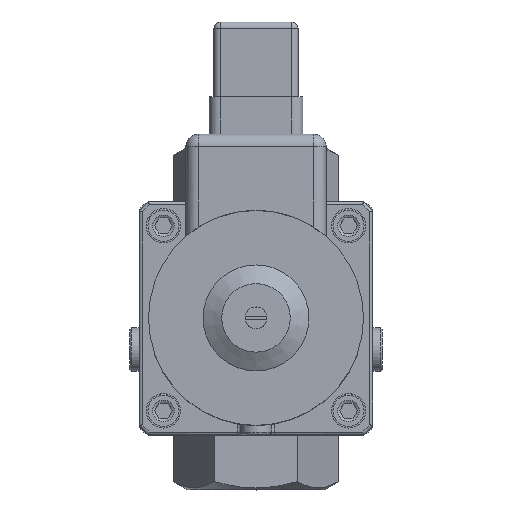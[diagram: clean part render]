
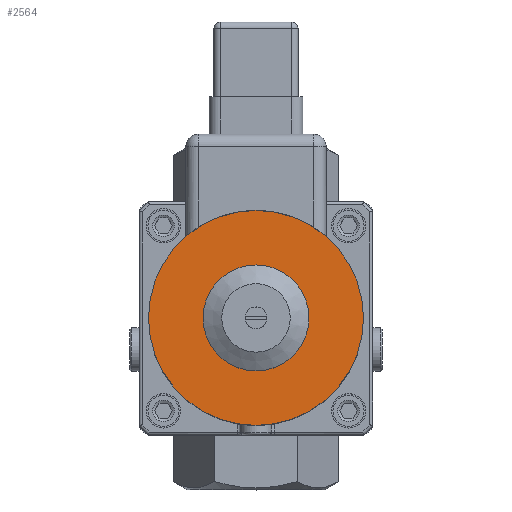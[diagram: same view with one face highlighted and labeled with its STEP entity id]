
A CAD part, top view. The second image highlights one B-rep face of the part: STEP entity #2564.
In plain terms, the highlighted planar face has unit normal (0, 0, 1).
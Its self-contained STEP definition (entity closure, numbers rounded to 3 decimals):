
#2564 = ADVANCED_FACE( '', ( #4092, #4093 ), #4094, .F. );
#4092 = FACE_BOUND( '', #6755, .T. );
#4093 = FACE_OUTER_BOUND( '', #6756, .T. );
#4094 = PLANE( '', #6757 );
#6755 = EDGE_LOOP( '', ( #10311 ) );
#6756 = EDGE_LOOP( '', ( #10312 ) );
#6757 = AXIS2_PLACEMENT_3D( '', #10313, #10314, #10315 );
#10311 = ORIENTED_EDGE( '', *, *, #11651, .T. );
#10312 = ORIENTED_EDGE( '', *, *, #11642, .F. );
#10313 = CARTESIAN_POINT( '', ( 0., 0., 60. ) );
#10314 = DIRECTION( '', ( 0., 0., -1. ) );
#10315 = DIRECTION( '', ( -1., 0., 0. ) );
#11642 = EDGE_CURVE( '', #13326, #13326, #13327, .T. );
#11651 = EDGE_CURVE( '', #13343, #13343, #13344, .T. );
#13326 = VERTEX_POINT( '', #17678 );
#13327 = CIRCLE( '', #17679, 34.5 );
#13343 = VERTEX_POINT( '', #17744 );
#13344 = CIRCLE( '', #17745, 13.75 );
#17678 = CARTESIAN_POINT( '', ( 34.5, 0., 60. ) );
#17679 = AXIS2_PLACEMENT_3D( '', #19659, #19660, #19661 );
#17744 = CARTESIAN_POINT( '', ( 13.75, 0., 60. ) );
#17745 = AXIS2_PLACEMENT_3D( '', #19673, #19674, #19675 );
#19659 = CARTESIAN_POINT( '', ( 0., 0., 60. ) );
#19660 = DIRECTION( '', ( 0., 0., -1. ) );
#19661 = DIRECTION( '', ( 1., 0., 0. ) );
#19673 = CARTESIAN_POINT( '', ( 0., 0., 60. ) );
#19674 = DIRECTION( '', ( 0., 0., -1. ) );
#19675 = DIRECTION( '', ( 1., 0., 0. ) );
